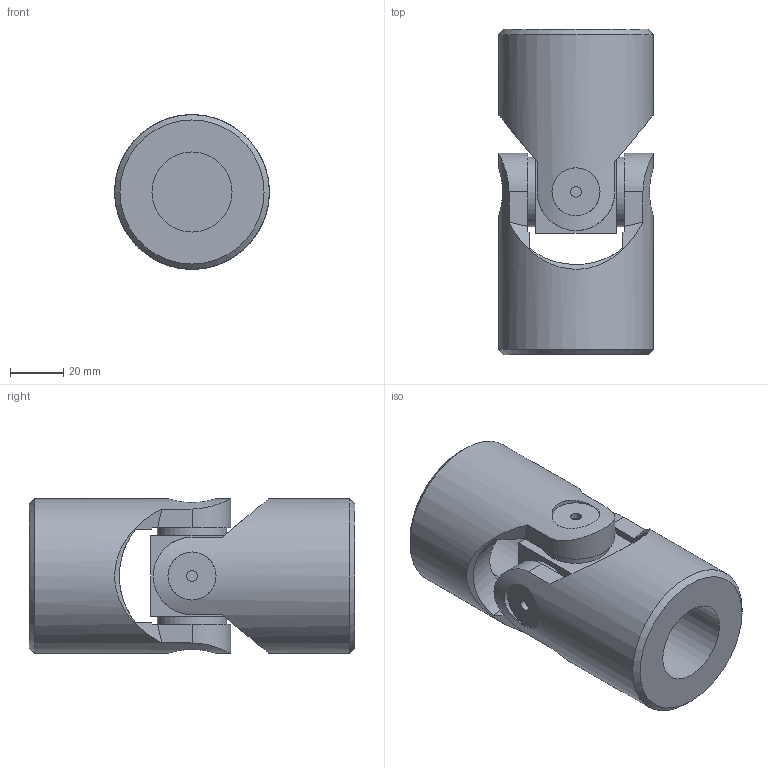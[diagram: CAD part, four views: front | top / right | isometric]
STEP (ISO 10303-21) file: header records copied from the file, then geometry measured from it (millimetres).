
FILE_DESCRIPTION(/* description */ (''),/* implementation_level */ '2;1');
FILE_NAME(/* name */ '\\SRV2016\Societa\Stefano\Disegni 3D\Dis. Clienti\0000Catalogo 3D\01Singoli G-GB\6G-00_SG0S3000.stp',/* time_stamp */ '2021-11-10T11:13:36+01:00',/* author */ ('acquisti'),/* organization */ (''),/* preprocessor_version */ 'ST-DEVELOPER v15.6',/* originating_system */ 'Autodesk Inventor 2015',/* authorisation */ '');
FILE_SCHEMA (('AUTOMOTIVE_DESIGN { 1 0 10303 214 3 1 1 }'));
Length unit declared in the file: millimetre
Products named in the file (3): 6G SFE; 6G MOS; Assieme1
Assembly tree (3 placements, depth 2):
  Assieme1
    6G SFE
    6G MOS  x2
Bounding box: 58 x 122 x 58 mm (x, y, z)
Volume: 211742.8 mm3; surface area: 44536.8 mm2
Topology: 3 solids, 3 shells, 72 faces, 170 edges, 114 vertices
Faces by surface type: plane 36, cylinder 22, cone 12, torus 2
Full cylindrical faces by diameter (mm): 4 x4, 18 x4, 26 x4, 30 x2, 32 x2, 58 x2
Entity records: 1407 total; most frequent: CARTESIAN_POINT 456, DIRECTION 184, ORIENTED_EDGE 164, EDGE_CURVE 82, AXIS2_PLACEMENT_3D 80, EDGE_LOOP 66, VERTEX_POINT 64, FACE_OUTER_BOUND 43
